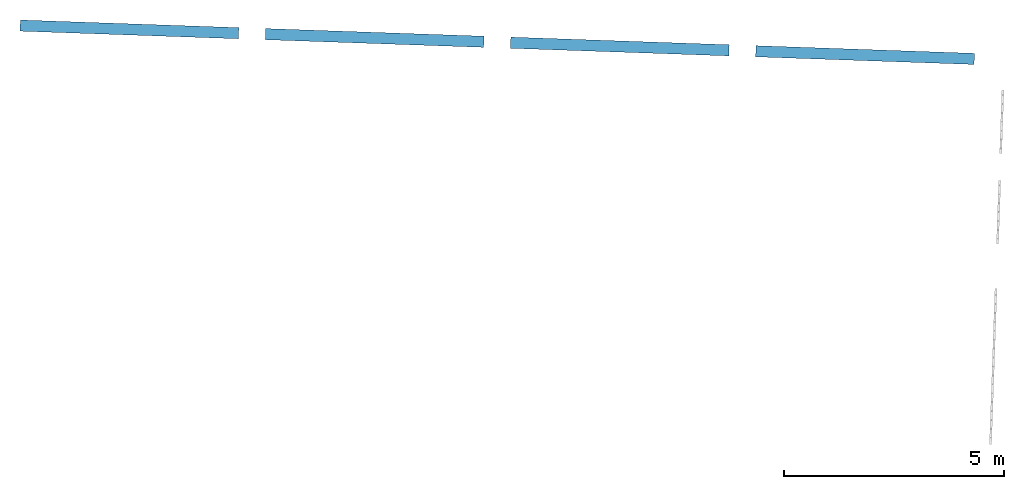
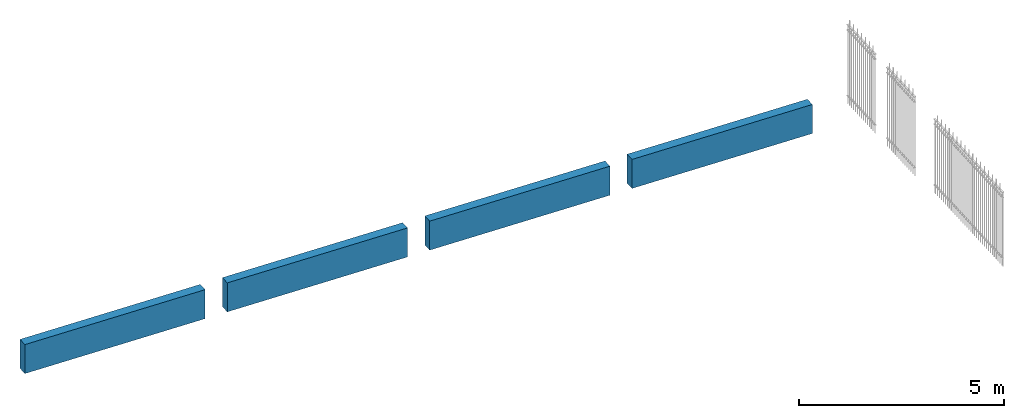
# One storey, part 1 of 2: 1 beam.
"""IFC2X3 building model written with IfcOpenShell, lengths in feet."""

from ifc_helpers import new_model, entity, si_unit, converted_unit, derived_unit, direction, frame, frame_2d, origin, place, context, subcontext, project, spatial, rectangle, extrude, material, element, save


model = new_model("IFC2X3")

# Units and contexts
model_context = context("Model", 3, precision=0.0001, world=origin(), true_north=direction((0.999390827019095, 0.0348994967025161)))
body_context = subcontext(model_context, "Body", "Model", "MODEL_VIEW")
ifc_project = project(units=[converted_unit("LENGTHUNIT", "FOOT", entity("IfcRatioMeasure", 0.3048), si_unit("LENGTHUNIT", "METRE"), dimensions=[1, 0, 0, 0, 0, 0, 0]), converted_unit("AREAUNIT", "SQUARE FOOT", entity("IfcRatioMeasure", 0.09290304), si_unit("AREAUNIT", "SQUARE_METRE"), dimensions=[2, 0, 0, 0, 0, 0, 0]), converted_unit("VOLUMEUNIT", "CUBIC FOOT", entity("IfcRatioMeasure", 0.028316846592), si_unit("VOLUMEUNIT", "CUBIC_METRE"), dimensions=[3, 0, 0, 0, 0, 0, 0]), converted_unit("PLANEANGLEUNIT", "DEGREE", entity("IfcRatioMeasure", 0.0174532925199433), si_unit("PLANEANGLEUNIT", "RADIAN"), dimensions=[0, 0, 0, 0, 0, 0, 0]), si_unit("MASSUNIT", "GRAM", prefix="KILO"), si_unit("TIMEUNIT", "SECOND"), si_unit("FREQUENCYUNIT", "HERTZ"), si_unit("THERMODYNAMICTEMPERATUREUNIT", "DEGREE_CELSIUS"), derived_unit("THERMALTRANSMITTANCEUNIT", [(si_unit("MASSUNIT", "GRAM", prefix="KILO"), 1), (si_unit("THERMODYNAMICTEMPERATUREUNIT", "KELVIN"), -1), (si_unit("TIMEUNIT", "SECOND"), -3)]), derived_unit("VOLUMETRICFLOWRATEUNIT", [(si_unit("LENGTHUNIT", "METRE"), 3), (si_unit("TIMEUNIT", "SECOND"), -1)]), si_unit("ELECTRICCURRENTUNIT", "AMPERE"), si_unit("ELECTRICVOLTAGEUNIT", "VOLT"), si_unit("POWERUNIT", "WATT"), si_unit("FORCEUNIT", "NEWTON"), si_unit("ILLUMINANCEUNIT", "LUX"), si_unit("LUMINOUSFLUXUNIT", "LUMEN"), si_unit("LUMINOUSINTENSITYUNIT", "CANDELA"), derived_unit("USERDEFINED", [(si_unit("MASSUNIT", "GRAM", prefix="KILO"), -1), (si_unit("LENGTHUNIT", "METRE"), -2), (si_unit("TIMEUNIT", "SECOND"), 3), (si_unit("LUMINOUSFLUXUNIT", "LUMEN"), 1)]), derived_unit("LINEARVELOCITYUNIT", [(si_unit("LENGTHUNIT", "METRE"), 1), (si_unit("TIMEUNIT", "SECOND"), -1)]), si_unit("PRESSUREUNIT", "PASCAL"), derived_unit("USERDEFINED", [(si_unit("LENGTHUNIT", "METRE"), -2), (si_unit("MASSUNIT", "GRAM", prefix="KILO"), 1), (si_unit("TIMEUNIT", "SECOND"), -2)])], contexts=[model_context])

# Site, building, storey
site_placement = place(None, frame((892.518771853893, 322.38689265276, 0.00393700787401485), z_axis=(0.0, 0.0, 1.0), x_axis=(0.0348994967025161, 0.999390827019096, 0.0)))
site = spatial("IfcSite", under=ifc_project, at=site_placement, Name="Default", CompositionType="ELEMENT")
building_placement = place(site_placement, origin())
building = spatial("IfcBuilding", under=site, at=building_placement, CompositionType="ELEMENT")
storey_placement = place(building_placement, frame((0.0, 0.0, 556.833333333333)))
storey = spatial("IfcBuildingStorey", under=building, at=storey_placement, Name="1st Floor", CompositionType="ELEMENT", Elevation=556.833333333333)

# Beam
ifc_material = material(Name="Concrete - Cast-in-Place Concrete")
beam_placement = place(storey_placement, frame((223.34395974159, 310.347286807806, 0.389999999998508), z_axis=(0.0, 0.0, 1.0), x_axis=(0.0, -1.0, 0.0)))
element("IfcBeam", 1, at=beam_placement, inside=storey, material=ifc_material, Name="Concrete-Rectangular Beam:34\" x 10\"w", ObjectType="Concrete-Rectangular Beam:34\" x 10\"w", context=body_context, shape_type="SweptSolid", body=[
    extrude(rectangle(XDim=2.83333333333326, YDim=0.833333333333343, at=frame_2d((0.0, 1.4210854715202e-14), x_axis=(1.0, 0.0))), frame((56.2500000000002, 0.0, -1.41666666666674), z_axis=(1.0, 0.0, 0.0), x_axis=(0.0, 0.0, -1.0)), (0.0, 0.0, 1.0), 16.3333333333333),
    extrude(rectangle(XDim=2.83333333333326, YDim=0.833333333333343, at=frame_2d((0.0, -1.4210854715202e-14), x_axis=(1.0, 0.0))), frame((1.25000000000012, 0.0, -1.41666666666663), z_axis=(1.0, 0.0, 0.0), x_axis=(0.0, 0.0, -1.0)), (0.0, 0.0, 1.0), 16.3333333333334),
    extrude(rectangle(XDim=2.83333333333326, YDim=0.833333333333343, at=frame_2d((0.0, -1.4210854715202e-14), x_axis=(1.0, 0.0))), frame((19.5833333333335, 0.0, -1.41666666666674), z_axis=(1.0, 0.0, 0.0), x_axis=(0.0, 0.0, -1.0)), (0.0, 0.0, 1.0), 16.3333333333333),
    extrude(rectangle(XDim=2.83333333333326, YDim=0.833333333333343, at=frame_2d((0.0, 1.4210854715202e-14), x_axis=(1.0, 0.0))), frame((37.9166666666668, 0.0, -1.41666666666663), z_axis=(1.0, 0.0, 0.0), x_axis=(0.0, 0.0, -1.0)), (0.0, 0.0, 1.0), 16.3333333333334),
])

save(model, "model.ifc")
